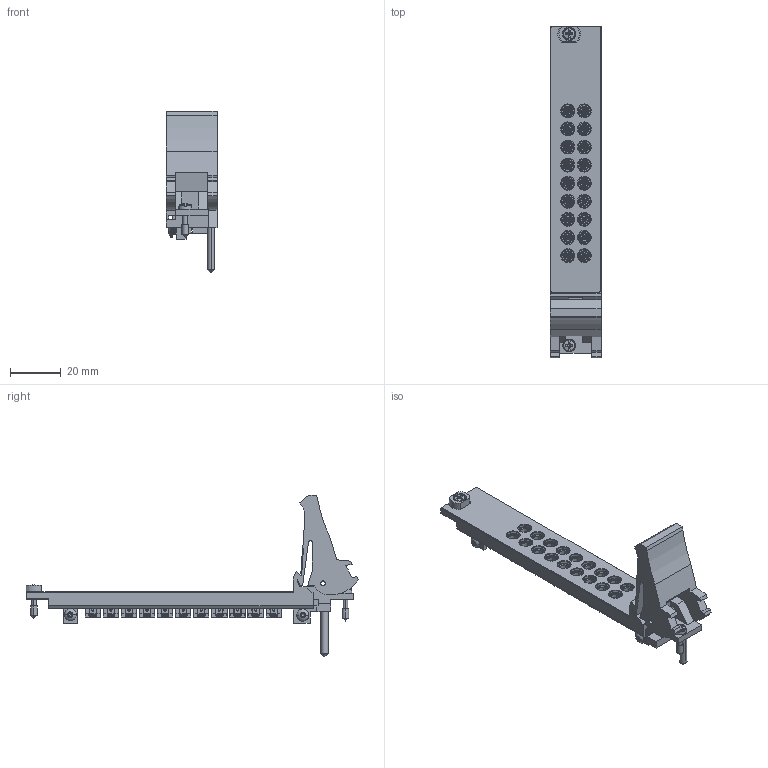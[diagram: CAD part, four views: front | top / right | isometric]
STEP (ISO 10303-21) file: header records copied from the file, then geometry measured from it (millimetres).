
FILE_DESCRIPTION((''),'2;1');
FILE_NAME('CU-PXIE-2747','2015-05-08T',('mshaw'),(''),'PRO/ENGINEER BY PARAMETRIC TECHNOLOGY CORPORATION, 2014000','PRO/ENGINEER BY PARAMETRIC TECHNOLOGY CORPORATION, 2014000','');
FILE_SCHEMA(('CONFIG_CONTROL_DESIGN'));
Length unit declared in the file: inch
Products named in the file (1): CU-PXIE-2747
Bounding box: 20.31 x 130.5 x 63.53 mm (x, y, z)
Volume: 18645 mm3; surface area: 23083.9 mm2
Topology: 23 solids, 23 shells, 3378 faces, 9383 edges, 6207 vertices
Faces by surface type: plane 1604, cylinder 1184, cone 532, bspline 34, torus 12, sphere 8, extrusion 4
Entity records: 123674 total; most frequent: CARTESIAN_POINT 36266, ORIENTED_EDGE 18750, DIRECTION 18097, EDGE_CURVE 9375, AXIS2_PLACEMENT_3D 6553, VERTEX_POINT 6207, VECTOR 4991, LINE 4987
